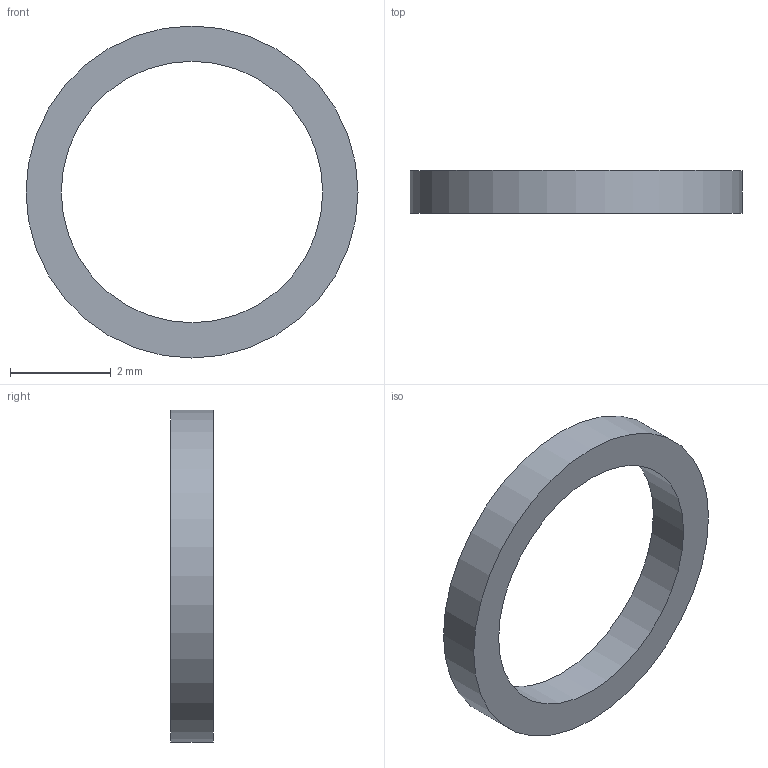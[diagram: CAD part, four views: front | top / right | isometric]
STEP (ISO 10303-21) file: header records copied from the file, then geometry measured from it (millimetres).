
FILE_DESCRIPTION(('Open CASCADE Model'),'2;1');
FILE_NAME('S03-root_left_spacer.step', '', ('Noah Wilson'), (''), '', '', '');
FILE_SCHEMA(('AUTOMOTIVE_DESIGN { 1 0 10303 214 1 1 1 1 }'));
Length unit declared in the file: millimetre
Products named in the file (2): =>[0:1:1:2]; COMPOUND
Assembly tree (1 placements, depth 2):
  =>[0:1:1:2]
    COMPOUND
Bounding box: 6.6 x 0.85 x 6.6 mm (x, y, z)
Volume: 11 mm3; surface area: 57.5 mm2
Topology: 1 solids, 1 shells, 4 faces, 6 edges, 4 vertices
Faces by surface type: cylinder 2, plane 2
Full cylindrical faces by diameter (mm): 5.2 x1, 6.6 x1
Entity records: 204 total; most frequent: DIRECTION 34, CARTESIAN_POINT 28, ORIENTED_EDGE 12, PCURVE 12, DEFINITIONAL_REPRESENTATION 12, AXIS2_PLACEMENT_3D 10, LINE 10, VECTOR 10
